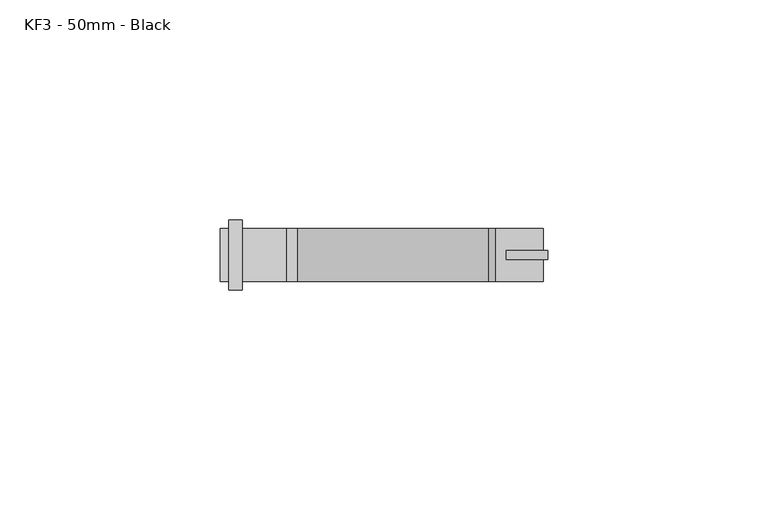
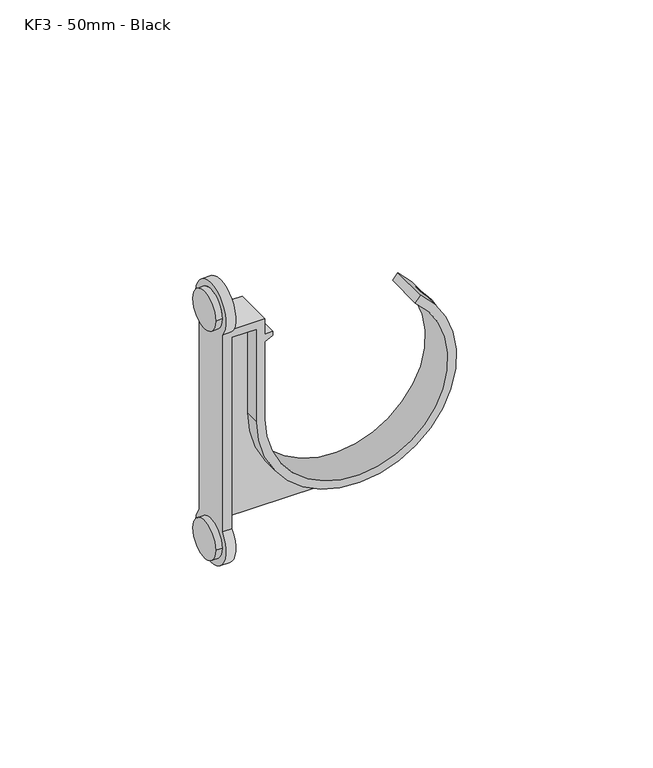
"""IFC4 building model written with IfcOpenShell, lengths in millimetres: pipe fitting geometry, MarleyPlumbingAndDrainage_PipeFitting_OpenPipeClip : KF3 - 50mm - Black."""

import ifcopenshell
import ifcopenshell.guid

model = None  # the IFC model being written
_history = None  # IfcOwnerHistory: only IFC2X3 demands one
_inside = {}  # id of a spatial element -> (the spatial element, [elements in it])
_under = {}  # id of a project, library or spatial element -> (it, [spatial elements below it])
_declared = {}  # id of a project -> (the project, [libraries it declares])
_typed = {}  # id of a type object -> (the type object, [elements of that type])
_made_of = {}  # id of a material, layer set ... -> (it, [elements and type objects made of it])


def new_model(schema):
    """Start an empty IFC model of exactly this schema.

    Asked for "IFC4X3", IfcOpenShell would pick the latest addendum, in which some entities
    have other attributes; the version numbers below select the first issue.
    IFC2X3 requires an IfcOwnerHistory on every rooted entity: one is made here for all.
    """
    global model, _history
    if schema == "IFC4X3":
        model = ifcopenshell.file(schema_version=(4, 3, 0, 0))
    else:
        model = ifcopenshell.file(schema=schema)
    _inside.clear()
    _under.clear()
    _declared.clear()
    _typed.clear()
    _made_of.clear()
    _history = None
    if model.schema == "IFC2X3":
        org = make("IfcOrganization", Name="unknown")
        user = make(
            "IfcPersonAndOrganization",
            ThePerson=make("IfcPerson", FamilyName="unknown"),
            TheOrganization=org,
        )
        app = make(
            "IfcApplication",
            ApplicationDeveloper=org,
            Version="unknown",
            ApplicationFullName="unknown",
            ApplicationIdentifier="unknown",
        )
        _history = make(
            "IfcOwnerHistory",
            OwningUser=user,
            OwningApplication=app,
            ChangeAction="ADDED",
            CreationDate=0,
        )
    return model


def make(cls, **values):
    """One entity of the class cls with the attributes given. An attribute that is None is left unset."""
    return model.create_entity(
        cls, **{name: value for name, value in values.items() if value is not None}
    )


def rooted(cls, **values):
    """An entity with a GlobalId (a new one), such as an element, a storey or a relation."""
    return make(cls, GlobalId=ifcopenshell.guid.new(), OwnerHistory=_history, **values)


def si_unit(unit_type, name, prefix=None):
    """IfcSIUnit, for example si_unit("LENGTHUNIT", "METRE", prefix="MILLI")."""
    return make("IfcSIUnit", UnitType=unit_type, Prefix=prefix, Name=name)


def assignment(units):
    """IfcUnitAssignment: the units of a project."""
    return None if units is None else make("IfcUnitAssignment", Units=units)


def point(xyz):
    """IfcCartesianPoint."""
    return None if xyz is None else make("IfcCartesianPoint", Coordinates=xyz)


def direction(xyz):
    """IfcDirection."""
    return None if xyz is None else make("IfcDirection", DirectionRatios=xyz)


def frame(location, z_axis=None, x_axis=None):
    """IfcAxis2Placement3D, a coordinate frame: its origin and axes. An axis left out is left unset."""
    return make(
        "IfcAxis2Placement3D",
        Location=point(location),
        Axis=direction(z_axis),
        RefDirection=direction(x_axis),
    )


def frame_2d(location, x_axis=None):
    """IfcAxis2Placement2D, a coordinate frame in the plane: its origin and x axis."""
    return make(
        "IfcAxis2Placement2D", Location=point(location), RefDirection=direction(x_axis)
    )


def origin():
    """The frame at (0, 0, 0) with its axes left unset."""
    return frame((0.0, 0.0, 0.0))


def place(relative_to, where):
    """IfcLocalPlacement: puts the frame where relative to a parent placement (None: the world)."""
    return make(
        "IfcLocalPlacement", PlacementRelTo=relative_to, RelativePlacement=where
    )


def context(
    kind, dimensions, precision=None, world=None, true_north=None, identifier=None
):
    """IfcGeometricRepresentationContext, for example the 3D "Model" context."""
    return make(
        "IfcGeometricRepresentationContext",
        ContextIdentifier=identifier,
        ContextType=kind,
        CoordinateSpaceDimension=dimensions,
        Precision=precision,
        WorldCoordinateSystem=world,
        TrueNorth=true_north,
    )


def project(units=None, contexts=None):
    """IfcProject with its units and contexts."""
    return rooted(
        "IfcProject",
        Name="project",
        RepresentationContexts=contexts,
        UnitsInContext=assignment(units),
    )


def spatial(cls, under=None, at=None, **own):
    """A site, building, storey or space (cls), placed at a placement, below another one or the project."""
    s = rooted(cls, ObjectPlacement=at, **own)
    if under is not None:
        _under.setdefault(under.id(), (under, []))[1].append(s)
    return s


def polyline(points):
    """IfcPolyline through the points."""
    return make("IfcPolyline", Points=[point(p) for p in points])


def circle_curve(where, radius):
    """IfcCircle in the frame where."""
    return make("IfcCircle", Position=where, Radius=radius)


def trimmed(basis, trim1, trim2, sense, master):
    """IfcTrimmedCurve: the piece of a basis curve between two trims."""
    return make(
        "IfcTrimmedCurve",
        BasisCurve=basis,
        Trim1=trim1,
        Trim2=trim2,
        SenseAgreement=sense,
        MasterRepresentation=master,
    )


def segment(curve, same_sense, transition):
    """IfcCompositeCurveSegment."""
    return make(
        "IfcCompositeCurveSegment",
        Transition=transition,
        SameSense=same_sense,
        ParentCurve=curve,
    )


def composite_curve(segments, self_intersect=None):
    """IfcCompositeCurve: segments joined end to end."""
    return make("IfcCompositeCurve", Segments=segments, SelfIntersect=self_intersect)


def outline(outer, holes=None, kind="AREA"):
    """IfcArbitraryClosedProfileDef: a profile drawn as a closed curve; with holes, ...WithVoids."""
    if holes is None:
        return make("IfcArbitraryClosedProfileDef", ProfileType=kind, OuterCurve=outer)
    return make(
        "IfcArbitraryProfileDefWithVoids",
        ProfileType=kind,
        OuterCurve=outer,
        InnerCurves=holes,
    )


def extrude(swept, where, along, depth):
    """IfcExtrudedAreaSolid: the profile swept, set in the frame where, extruded along a direction by depth."""
    return make(
        "IfcExtrudedAreaSolid",
        SweptArea=swept,
        Position=where,
        ExtrudedDirection=direction(along),
        Depth=depth,
    )


def shape(context_of_items, identifier, shape_type, items):
    """IfcShapeRepresentation: the items that make up one representation, for example the "Body"."""
    return make(
        "IfcShapeRepresentation",
        ContextOfItems=context_of_items,
        RepresentationIdentifier=identifier,
        RepresentationType=shape_type,
        Items=items,
    )


def source(mapping_origin, context_of_items, identifier, shape_type, items):
    """IfcRepresentationMap: a shape defined once, which mapped items show again and again."""
    return make(
        "IfcRepresentationMap",
        MappingOrigin=mapping_origin,
        MappedRepresentation=shape(context_of_items, identifier, shape_type, items),
    )


def transform(
    local_origin,
    x_axis=None,
    y_axis=None,
    z_axis=None,
    scale=None,
    scale2=None,
    scale3=None,
    uniform=True,
):
    """IfcCartesianTransformationOperator3D, or its non-uniform kind. x_axis, y_axis, z_axis: its Axis1, 2, 3."""
    if uniform:
        return make(
            "IfcCartesianTransformationOperator3D",
            Axis1=direction(x_axis),
            Axis2=direction(y_axis),
            LocalOrigin=point(local_origin),
            Scale=scale,
            Axis3=direction(z_axis),
        )
    return make(
        "IfcCartesianTransformationOperator3DnonUniform",
        Axis1=direction(x_axis),
        Axis2=direction(y_axis),
        LocalOrigin=point(local_origin),
        Scale=scale,
        Axis3=direction(z_axis),
        Scale2=scale2,
        Scale3=scale3,
    )


def mapped(mapping_source, mapping_target):
    """IfcMappedItem: shows the shape of a source again, moved by a transform."""
    return make(
        "IfcMappedItem", MappingSource=mapping_source, MappingTarget=mapping_target
    )


def made_of(thing, what):
    """Note that an element or type object is made of a material, layer set ...; save() writes the relation."""
    if what is not None:
        _made_of.setdefault(what.id(), (what, []))[1].append(thing)
    return thing


def element(
    cls,
    number,
    at=None,
    inside=None,
    cuts=None,
    type_object=None,
    material=None,
    context=None,
    identifier="Body",
    shape_type=None,
    held_by="IfcProductDefinitionShape",
    body=None,
    shapes=None,
    **own,
):
    """One element of the class cls, such as IfcWall. Its Tag is "e" and its number.

    at: its placement. inside: the storey or other place that contains it. cuts: it is an
    opening in that element (IfcRelVoidsElement). A single representation is given by context,
    identifier, shape_type and body (its items); several are given by shapes. held_by: the class
    of the entity that holds the representations. save() writes the other relations.
    """
    e = rooted(cls, Tag="e%d" % number, ObjectPlacement=at, **own)
    if body is not None:
        shapes = [shape(context, identifier, shape_type, body)]
    if shapes is not None:
        e.Representation = make(held_by, Representations=shapes)
    if inside is not None:
        _inside.setdefault(inside.id(), (inside, []))[1].append(e)
    if cuts is not None:
        rooted(
            "IfcRelVoidsElement", RelatingBuildingElement=cuts, RelatedOpeningElement=e
        )
    if type_object is not None:
        _typed.setdefault(type_object.id(), (type_object, []))[1].append(e)
    return made_of(e, material)


def aggregate(whole, parts):
    """IfcRelAggregates: a whole, such as a stair, and the parts it consists of."""
    return rooted("IfcRelAggregates", RelatingObject=whole, RelatedObjects=parts)


def save(model, path):
    """Write the relations noted so far, then the file.

    IfcRelAggregates (storeys below a building ...), IfcRelContainedInSpatialStructure (elements
    in a storey), IfcRelDefinesByType, IfcRelAssociatesMaterial and IfcRelDeclares: one each for
    every whole, place, type object, material and project.
    """
    for whole, parts in _under.values():
        aggregate(whole, parts)
    for where, things in _inside.values():
        rooted(
            "IfcRelContainedInSpatialStructure",
            RelatedElements=things,
            RelatingStructure=where,
        )
    for kind, things in _typed.values():
        rooted("IfcRelDefinesByType", RelatedObjects=things, RelatingType=kind)
    for what, things in _made_of.values():
        rooted("IfcRelAssociatesMaterial", RelatedObjects=things, RelatingMaterial=what)
    for by, libraries in _declared.values():
        rooted("IfcRelDeclares", RelatingContext=by, RelatedDefinitions=libraries)
    model.write(path)


def plane_surface(at):
    """IfcPlane: the flat surface through the origin of the frame at, square to its z axis."""
    return make("IfcPlane", Position=at)


def cylinder_surface(at, radius):
    """IfcCylindricalSurface: all points at the distance radius from the z axis of the frame at."""
    return make("IfcCylindricalSurface", Position=at, Radius=radius)


def revolved_surface(curve, axis_point, axis_direction):
    """IfcSurfaceOfRevolution: the curve turned about the line through axis_point along axis_direction."""
    return make(
        "IfcSurfaceOfRevolution",
        SweptCurve=make("IfcArbitraryOpenProfileDef", ProfileType="CURVE", Curve=curve),
        AxisPosition=make("IfcAxis1Placement", Location=point(axis_point), Axis=direction(axis_direction)),
    )


def advanced_brep(points, edges, surfaces, faces):
    """IfcAdvancedBrep: a solid bounded by faces that lie on surfaces and meet in shared edges.

    An edge is (start, end): straight between two places in points (the first is 0);
    or (start, end, curve); or (start, end, curve, False) where it runs against its curve.
    A face is (place in surfaces, loops), or (place, loops, False) where it looks against
    its surface's normal. A loop lists edges by number (the first is 1), with a minus sign
    where the edge is run from its end to its start. The first loop is the outer one.
    """
    corners = [point(p) for p in points]
    vertices = [make("IfcVertexPoint", VertexGeometry=c) for c in corners]
    made = []
    for start, end, *more in edges:
        made.append(
            make(
                "IfcEdgeCurve",
                EdgeStart=vertices[start],
                EdgeEnd=vertices[end],
                EdgeGeometry=more[0] if more else make("IfcPolyline", Points=[corners[start], corners[end]]),
                SameSense=more[1] if len(more) > 1 else True,
            )
        )
    hull = []
    for where, loops, *sense in faces:
        bounds = []
        for j, loop in enumerate(loops):
            ring = [make("IfcOrientedEdge", EdgeElement=made[abs(k) - 1], Orientation=k > 0) for k in loop]
            bounds.append(
                make(
                    "IfcFaceOuterBound" if j == 0 else "IfcFaceBound",
                    Bound=make("IfcEdgeLoop", EdgeList=ring),
                    Orientation=True,
                )
            )
        hull.append(make("IfcAdvancedFace", Bounds=bounds, FaceSurface=surfaces[where], SameSense=sense[0] if sense else True))
    return make("IfcAdvancedBrep", Outer=make("IfcClosedShell", CfsFaces=hull))


def kf3_50mm_black_236c3547(model_context):
    return source(origin(), model_context, "Body", "SolidModel", [
        extrude(outline(composite_curve([segment(trimmed(circle_curve(frame_2d((0.0, -17.2849064)), 30.5), [point((21.0609601, 4.7760537))], [point((-30.4836021, -16.2849064))], True, "CARTESIAN"), True, "CONTINUOUS"), segment(trimmed(circle_curve(frame_2d((0.0, -17.2849064)), 30.5), [point((-30.4836021, -16.2849064))], [point((0.0, -47.7849064))], True, "CARTESIAN"), True, "CONTINUOUS"), segment(polyline([(0.0, -47.7849064), (30.0, -47.7849064), (30.0, -55.2849064), (-31.5, -55.2849064), (-31.5, -16.2849064)]), True, "CONTINUOUS"), segment(trimmed(circle_curve(frame_2d((-1.0, -16.2849064)), 30.5), [point((-31.5, -16.2849064))], [point((21.0609601, 4.7760537))], False, "CARTESIAN"), True, "CONTINUOUS")], self_intersect=False)), frame((0.0, -1.0, 0.0), z_axis=(0.0, 1.0, 0.0), x_axis=(0.0, 0.0, 1.0)), (0.0, 0.0, 1.0), 2.0),
        advanced_brep(
        [(-60.2849064, -6.0, 37.0), (-60.2849064, 6.0, 37.0), (-60.2849064, -6.0, -37.0), (-60.2849064, 6.0, -37.0), (-58.2849064, 6.0, 37.0), (-58.2849064, -6.0, 37.0), (-58.2849064, 6.0, -37.0), (-58.2849064, -6.0, -37.0), (-55.2849064, -6.0, -31.7084974), (-55.2849064, 6.0, -31.7084974), (-55.2849064, 6.0, 30.0), (-55.2849064, -6.0, 30.0), (-55.2849064, 6.0, 31.7084974), (-55.2849064, -6.0, 31.7084974), (-55.2849064, -6.0, 32.5), (-55.2849064, 6.0, 32.5), (-58.2849064, -6.0, 31.7084974), (-58.2849064, 6.0, 31.7084974), (-58.2849064, 6.0, -31.7084974), (-58.2849064, -6.0, -31.7084974), (-47.7849064, -6.0, 30.0), (-47.7849064, -6.0, 0.0), (2.3201157, -6.0, 23.3643555), (0.7131467, -6.0, 21.4492444), (-45.2849064, -6.0, 0.0), (-45.2849064, -6.0, 25.0), (-42.7849064, -6.0, 26.25), (-42.7849064, -6.0, 27.5), (-45.2849064, -6.0, 27.5), (-45.2849064, -6.0, 32.5), (-45.2849064, 6.0, 32.5), (-45.2849064, 6.0, 27.5), (-42.7849064, 6.0, 27.5), (-42.7849064, 6.0, 26.25), (-45.2849064, 6.0, 25.0), (-45.2849064, 6.0, 0.0), (0.7131467, 6.0, 21.4492444), (2.3201157, 6.0, 23.3643555), (-47.7849064, 6.0, 0.0), (-47.7849064, 6.0, 30.0)],
        [
            (0, 1, circle_curve(frame((-60.2849064, 0.0, 37.0), z_axis=(-1.0, 0.0, 0.0), x_axis=(0.0, 1.0, 0.0)), 6.0)),
            (1, 0, circle_curve(frame((-60.2849064, 0.0, 37.0), z_axis=(-1.0, 0.0, 0.0), x_axis=(0.0, 1.0, 0.0)), 6.0)),
            (2, 3, circle_curve(frame((-60.2849064, 0.0, -37.0), z_axis=(-1.0, 0.0, 0.0), x_axis=(0.0, 1.0, 0.0)), 6.0)),
            (3, 2, circle_curve(frame((-60.2849064, 0.0, -37.0), z_axis=(-1.0, 0.0, 0.0), x_axis=(0.0, 1.0, 0.0)), 6.0)),
            (1, 4),
            (4, 5, circle_curve(frame((-58.2849064, 0.0, 37.0), z_axis=(-1.0, 0.0, 0.0), x_axis=(0.0, 1.0, 0.0)), 6.0)),
            (5, 0),
            (5, 4, circle_curve(frame((-58.2849064, 0.0, 37.0), z_axis=(-1.0, 0.0, 0.0), x_axis=(0.0, 1.0, 0.0)), 6.0)),
            (3, 6),
            (6, 7, circle_curve(frame((-58.2849064, 0.0, -37.0), z_axis=(-1.0, 0.0, 0.0), x_axis=(0.0, 1.0, 0.0)), 6.0)),
            (7, 2),
            (7, 6, circle_curve(frame((-58.2849064, 0.0, -37.0), z_axis=(-1.0, 0.0, 0.0), x_axis=(0.0, 1.0, 0.0)), 6.0)),
            (8, 9, circle_curve(frame((-55.2849064, 0.0, -37.0), z_axis=(1.0, 0.0, 0.0), x_axis=(0.0, 1.0, 0.0)), 8.0)),
            (9, 10),
            (10, 11),
            (11, 8),
            (12, 13, circle_curve(frame((-55.2849064, 0.0, 37.0), z_axis=(1.0, 0.0, 0.0), x_axis=(0.0, 1.0, 0.0)), 8.0)),
            (13, 14),
            (14, 15),
            (15, 12),
            (16, 17, circle_curve(frame((-58.2849064, 0.0, 37.0), z_axis=(-1.0, 0.0, 0.0), x_axis=(0.0, 1.0, 0.0)), 8.0)),
            (17, 18),
            (18, 19, circle_curve(frame((-58.2849064, 0.0, -37.0), z_axis=(-1.0, 0.0, 0.0), x_axis=(0.0, 1.0, 0.0)), 8.0)),
            (19, 16),
            (19, 8),
            (11, 20),
            (20, 21),
            (21, 22, circle_curve(frame((-17.2849064, -6.0, 0.0), z_axis=(0.0, -1.0, 0.0), x_axis=(1.0, 0.0, 0.0)), 30.5)),
            (22, 23),
            (23, 24, circle_curve(frame((-17.2849064, -6.0, 0.0), z_axis=(0.0, 1.0, 0.0), x_axis=(1.0, 0.0, 0.0)), 28.0)),
            (24, 25),
            (25, 26),
            (26, 27),
            (27, 28),
            (28, 29),
            (29, 14),
            (13, 16),
            (18, 9),
            (17, 12),
            (15, 30),
            (30, 31),
            (31, 32),
            (32, 33),
            (33, 34),
            (34, 35),
            (35, 36, circle_curve(frame((-17.2849064, 6.0, 0.0), z_axis=(0.0, -1.0, 0.0), x_axis=(1.0, 0.0, 0.0)), 28.0)),
            (36, 37),
            (37, 38, circle_curve(frame((-17.2849064, 6.0, 0.0), z_axis=(0.0, 1.0, 0.0), x_axis=(1.0, 0.0, 0.0)), 30.5)),
            (38, 39),
            (39, 10),
            (21, 38),
            (37, 22),
            (23, 36),
            (35, 24),
            (28, 31),
            (30, 29),
            (39, 20),
            (34, 25),
            (26, 33),
            (32, 27),
        ],
        [
            plane_surface(frame((-60.2849064, 6.0, 37.0), z_axis=(-1.0, 0.0, 0.0), x_axis=(0.0, 0.0, -1.0))),
            cylinder_surface(frame((-60.2849064, 0.0, 37.0), z_axis=(1.0, 0.0, 0.0), x_axis=(0.0, 1.0, 0.0)), 6.0),
            cylinder_surface(frame((-17.2849064, 0.0, -37.0), z_axis=(1.0, 0.0, 0.0), x_axis=(0.0, 1.0, 0.0)), 6.0),
            plane_surface(frame((-55.2849064, -6.0, 31.7084974), z_axis=(1.0, 0.0, 0.0), x_axis=(0.0, 0.0, -1.0))),
            plane_surface(frame((-58.2849064, -6.0, 31.7084974), z_axis=(-1.0, 0.0, 0.0), x_axis=(0.0, 0.0, 1.0))),
            plane_surface(frame((-55.2849064, -6.0, 31.7084974), z_axis=(0.0, -1.0, 0.0), x_axis=(-1.0, 0.0, 0.0))),
            cylinder_surface(frame((-58.2849064, 0.0, -37.0), z_axis=(1.0, 0.0, 0.0), x_axis=(0.0, 1.0, 0.0)), 8.0),
            plane_surface(frame((-55.2849064, 6.0, -31.7084974), z_axis=(0.0, 1.0, 0.0), x_axis=(-1.0, 0.0, 0.0))),
            cylinder_surface(frame((-58.2849064, 0.0, 37.0), z_axis=(1.0, 0.0, 0.0), x_axis=(0.0, 1.0, 0.0)), 8.0),
            cylinder_surface(frame((-17.2849064, 6.0, 0.0), z_axis=(0.0, -1.0, 0.0), x_axis=(1.0, 0.0, 0.0)), 30.5),
            revolved_surface(polyline([(10.7150936, 6.0, 0.0), (10.7150936, -6.0, 0.0)]), (-17.2849064, 6.0, 0.0), (0.0, 1.0, 0.0)),
            plane_surface(frame((-45.2849064, -6.0, 27.5), z_axis=(1.0, 0.0, 0.0), x_axis=(0.0, 1.0, 0.0))),
            plane_surface(frame((-45.2849064, -6.0, 32.5), z_axis=(0.0, 0.0, 1.0), x_axis=(0.0, 1.0, 0.0))),
            plane_surface(frame((-55.2849064, -6.0, 30.0), z_axis=(0.0, 0.0, -1.0), x_axis=(0.0, 1.0, 0.0))),
            plane_surface(frame((-47.7849064, -6.0, 30.0), z_axis=(-1.0, 0.0, 0.0), x_axis=(0.0, 1.0, 0.0))),
            plane_surface(frame((-45.2849064, -6.0, 0.0), z_axis=(1.0, 0.0, 0.0), x_axis=(0.0, 1.0, 0.0))),
            plane_surface(frame((-42.7849064, -6.0, 26.25), z_axis=(1.0, 0.0, 0.0), x_axis=(0.0, 1.0, 0.0))),
            plane_surface(frame((-42.7849064, -6.0, 27.5), z_axis=(0.0, 0.0, 1.0), x_axis=(0.0, 1.0, 0.0))),
            plane_surface(frame((2.3201157, -6.0, 23.3643555), z_axis=(-0.7660444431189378, 0.0, 0.6427876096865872), x_axis=(0.0, 1.0, 0.0))),
            plane_surface(frame((-45.2849064, -6.0, 25.0), z_axis=(0.4472135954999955, 0.0, -0.8944271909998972), x_axis=(0.0, 1.0, 0.0))),
        ],
        [
            (0, [[1, 2]]),
            (0, [[3, 4]]),
            (1, [[-2, 5, 6, 7]]),
            (1, [[-1, -7, 8, -5]]),
            (2, [[-4, 9, 10, 11]]),
            (2, [[-3, -11, 12, -9]]),
            (3, [[13, 14, 15, 16]]),
            (3, [[17, 18, 19, 20]]),
            (4, [[21, 22, 23, 24], [-6, -8], [-10, -12]]),
            (5, [[-24, 25, -16, 26, 27, 28, 29, 30, 31, 32, 33, 34, 35, 36, -18, 37]]),
            (6, [[-13, -25, -23, 38]]),
            (7, [[-22, 39, -20, 40, 41, 42, 43, 44, 45, 46, 47, 48, 49, 50, -14, -38]]),
            (8, [[-17, -39, -21, -37]]),
            (9, [[-28, 51, -48, 52]]),
            (10, [[-30, 53, -46, 54]]),
            (11, [[-35, 55, -41, 56]]),
            (12, [[-36, -56, -40, -19]]),
            (13, [[-26, -15, -50, 57]]),
            (14, [[-27, -57, -49, -51]]),
            (15, [[-31, -54, -45, 58]]),
            (16, [[-33, 59, -43, 60]]),
            (17, [[-34, -60, -42, -55]]),
            (18, [[-29, -52, -47, -53]]),
            (19, [[-32, -58, -44, -59]]),
        ],
    ),
    ])


if __name__ == "__main__":
    model = new_model("IFC4")
    model_context = context("Model", 3, world=origin())
    ifc_project = project(units=[si_unit("LENGTHUNIT", "METRE", prefix="MILLI")], contexts=[model_context])
    site = spatial("IfcSite", under=ifc_project)
    building = spatial("IfcBuilding", under=site)
    placement = place(None, origin())
    kf3_50mm_black_shape = kf3_50mm_black_236c3547(model_context)
    element("IfcPipeFitting", 1, ObjectType="MarleyPlumbingAndDrainage_PipeFitting_OpenPipeClip : KF3 - 50mm - Black", at=placement, inside=building, context=model_context, shape_type="MappedRepresentation", body=[
        mapped(kf3_50mm_black_shape, transform((0.0, 0.0, 0.0), x_axis=(1.0, 0.0, 0.0), y_axis=(0.0, 1.0, 0.0), z_axis=(0.0, 0.0, 1.0))),
    ])
    save(model, "model.ifc")
